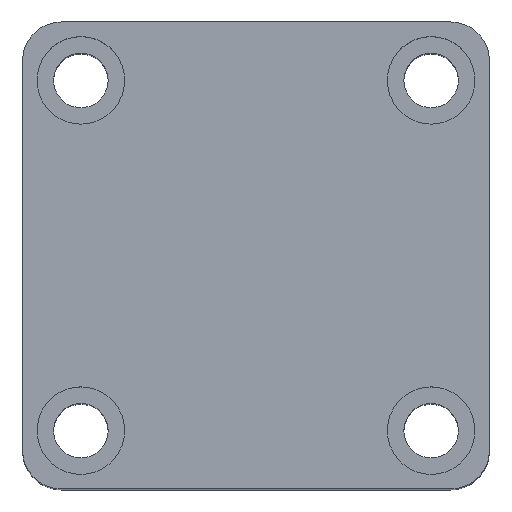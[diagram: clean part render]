
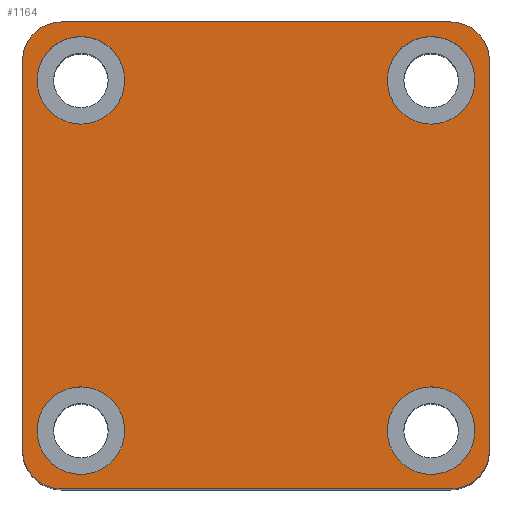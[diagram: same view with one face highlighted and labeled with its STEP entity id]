
A CAD part, top view. The second image highlights one B-rep face of the part: STEP entity #1164.
In plain terms, the highlighted planar face has unit normal (0, 0, 1).
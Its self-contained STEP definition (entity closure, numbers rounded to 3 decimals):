
#224 = CIRCLE ( 'NONE', #1001, 4. ) ;
#225 = CIRCLE ( 'NONE', #1035, 4. ) ;
#226 = CIRCLE ( 'NONE', #997, 4. ) ;
#229 = CIRCLE ( 'NONE', #1039, 4. ) ;
#230 = CIRCLE ( 'NONE', #994, 4.5 ) ;
#231 = CIRCLE ( 'NONE', #1046, 4.5 ) ;
#232 = CIRCLE ( 'NONE', #1048, 4.5 ) ;
#234 = CIRCLE ( 'NONE', #1044, 4.5 ) ;
#239 = VECTOR ( 'NONE', #2246, 1000. ) ;
#242 = LINE ( 'NONE', #2249, #239 ) ;
#247 = VECTOR ( 'NONE', #2263, 1000. ) ;
#250 = LINE ( 'NONE', #2266, #247 ) ;
#251 = VECTOR ( 'NONE', #2271, 1000. ) ;
#254 = LINE ( 'NONE', #2284, #251 ) ;
#263 = VECTOR ( 'NONE', #2352, 1000. ) ;
#265 = LINE ( 'NONE', #2339, #263 ) ;
#304 = CIRCLE ( 'NONE', #989, 4.5 ) ;
#308 = CIRCLE ( 'NONE', #936, 4.5 ) ;
#344 = CIRCLE ( 'NONE', #1057, 4.5 ) ;
#350 = CIRCLE ( 'NONE', #1066, 4.5 ) ;
#454 = FACE_BOUND ( 'NONE', #715, .T. ) ;
#456 = FACE_OUTER_BOUND ( 'NONE', #678, .T. ) ;
#458 = FACE_BOUND ( 'NONE', #692, .T. ) ;
#462 = FACE_BOUND ( 'NONE', #677, .T. ) ;
#465 = FACE_BOUND ( 'NONE', #709, .T. ) ;
#623 = VERTEX_POINT ( 'NONE', #1628 ) ;
#639 = VERTEX_POINT ( 'NONE', #1634 ) ;
#677 = EDGE_LOOP ( 'NONE', ( #2053, #2122 ) ) ;
#678 = EDGE_LOOP ( 'NONE', ( #2042, #2051, #2061, #2075, #2056, #2052, #2078, #2072 ) ) ;
#692 = EDGE_LOOP ( 'NONE', ( #2054, #2055 ) ) ;
#709 = EDGE_LOOP ( 'NONE', ( #2057, #2123 ) ) ;
#715 = EDGE_LOOP ( 'NONE', ( #2121, #2060 ) ) ;
#750 = VERTEX_POINT ( 'NONE', #1630 ) ;
#752 = VERTEX_POINT ( 'NONE', #1635 ) ;
#755 = VERTEX_POINT ( 'NONE', #1632 ) ;
#760 = VERTEX_POINT ( 'NONE', #1616 ) ;
#836 = VERTEX_POINT ( 'NONE', #1515 ) ;
#848 = VERTEX_POINT ( 'NONE', #1460 ) ;
#849 = VERTEX_POINT ( 'NONE', #1457 ) ;
#864 = VERTEX_POINT ( 'NONE', #1387 ) ;
#873 = VERTEX_POINT ( 'NONE', #1353 ) ;
#882 = VERTEX_POINT ( 'NONE', #1328 ) ;
#887 = VERTEX_POINT ( 'NONE', #1319 ) ;
#890 = VERTEX_POINT ( 'NONE', #1326 ) ;
#894 = VERTEX_POINT ( 'NONE', #1313 ) ;
#897 = VERTEX_POINT ( 'NONE', #1309 ) ;
#936 = AXIS2_PLACEMENT_3D ( 'NONE', #2557, #2568, #2556 ) ;
#965 = AXIS2_PLACEMENT_3D ( 'NONE', #1491, #1496, #1489 ) ;
#989 = AXIS2_PLACEMENT_3D ( 'NONE', #2534, #2533, #2539 ) ;
#994 = AXIS2_PLACEMENT_3D ( 'NONE', #2656, #2655, #2654 ) ;
#997 = AXIS2_PLACEMENT_3D ( 'NONE', #2643, #2642, #2639 ) ;
#1001 = AXIS2_PLACEMENT_3D ( 'NONE', #2633, #2632, #2631 ) ;
#1035 = AXIS2_PLACEMENT_3D ( 'NONE', #2636, #2635, #2634 ) ;
#1039 = AXIS2_PLACEMENT_3D ( 'NONE', #2653, #2652, #2651 ) ;
#1044 = AXIS2_PLACEMENT_3D ( 'NONE', #2166, #2165, #2164 ) ;
#1046 = AXIS2_PLACEMENT_3D ( 'NONE', #2660, #2659, #2658 ) ;
#1048 = AXIS2_PLACEMENT_3D ( 'NONE', #2163, #2662, #2663 ) ;
#1057 = AXIS2_PLACEMENT_3D ( 'NONE', #1237, #1236, #1235 ) ;
#1066 = AXIS2_PLACEMENT_3D ( 'NONE', #1247, #1246, #1245 ) ;
#1164 = ADVANCED_FACE ( 'NONE', ( #465, #454, #458, #462, #456 ), #1494, .T. ) ;
#1235 = DIRECTION ( 'NONE',  ( 1., 0., 0. ) ) ;
#1236 = DIRECTION ( 'NONE',  ( 0., 0., 1. ) ) ;
#1237 = CARTESIAN_POINT ( 'NONE',  ( 18., 18., 60. ) ) ;
#1245 = DIRECTION ( 'NONE',  ( 1., 0., 0. ) ) ;
#1246 = DIRECTION ( 'NONE',  ( 0., 0., 1. ) ) ;
#1247 = CARTESIAN_POINT ( 'NONE',  ( -18., 18., 60. ) ) ;
#1309 = CARTESIAN_POINT ( 'NONE',  ( -20., -24., 60. ) ) ;
#1313 = CARTESIAN_POINT ( 'NONE',  ( -13.5, -18., 60. ) ) ;
#1319 = CARTESIAN_POINT ( 'NONE',  ( 24., 20., 60. ) ) ;
#1326 = CARTESIAN_POINT ( 'NONE',  ( 22.5, -18., 60. ) ) ;
#1328 = CARTESIAN_POINT ( 'NONE',  ( -20., 24., 60. ) ) ;
#1353 = CARTESIAN_POINT ( 'NONE',  ( -24., -20., 60. ) ) ;
#1387 = CARTESIAN_POINT ( 'NONE',  ( 24., -20., 60. ) ) ;
#1457 = CARTESIAN_POINT ( 'NONE',  ( -22.5, 18., 60. ) ) ;
#1460 = CARTESIAN_POINT ( 'NONE',  ( 20., 24., 60. ) ) ;
#1489 = DIRECTION ( 'NONE',  ( 1., 0., 0. ) ) ;
#1491 = CARTESIAN_POINT ( 'NONE',  ( 0., 0., 60. ) ) ;
#1494 = PLANE ( 'NONE',  #965 ) ;
#1496 = DIRECTION ( 'NONE',  ( 0., 0., 1. ) ) ;
#1515 = CARTESIAN_POINT ( 'NONE',  ( -24., 20., 60. ) ) ;
#1616 = CARTESIAN_POINT ( 'NONE',  ( 13.5, 18., 60. ) ) ;
#1628 = CARTESIAN_POINT ( 'NONE',  ( 20., -24., 60. ) ) ;
#1630 = CARTESIAN_POINT ( 'NONE',  ( -13.5, 18., 60. ) ) ;
#1632 = CARTESIAN_POINT ( 'NONE',  ( 22.5, 18., 60. ) ) ;
#1634 = CARTESIAN_POINT ( 'NONE',  ( 13.5, -18., 60. ) ) ;
#1635 = CARTESIAN_POINT ( 'NONE',  ( -22.5, -18., 60. ) ) ;
#1765 = EDGE_CURVE ( 'NONE', #849, #750, #350, .T. ) ;
#1769 = EDGE_CURVE ( 'NONE', #760, #755, #344, .T. ) ;
#1792 = EDGE_CURVE ( 'NONE', #752, #894, #308, .T. ) ;
#1796 = EDGE_CURVE ( 'NONE', #639, #890, #304, .T. ) ;
#1824 = EDGE_CURVE ( 'NONE', #864, #887, #265, .T. ) ;
#1830 = EDGE_CURVE ( 'NONE', #848, #882, #254, .T. ) ;
#1832 = EDGE_CURVE ( 'NONE', #836, #873, #250, .T. ) ;
#1836 = EDGE_CURVE ( 'NONE', #897, #623, #242, .T. ) ;
#1840 = EDGE_CURVE ( 'NONE', #750, #849, #234, .T. ) ;
#1841 = EDGE_CURVE ( 'NONE', #755, #760, #232, .T. ) ;
#1842 = EDGE_CURVE ( 'NONE', #894, #752, #231, .T. ) ;
#1843 = EDGE_CURVE ( 'NONE', #890, #639, #230, .T. ) ;
#1844 = EDGE_CURVE ( 'NONE', #882, #836, #229, .T. ) ;
#1847 = EDGE_CURVE ( 'NONE', #873, #897, #226, .T. ) ;
#1848 = EDGE_CURVE ( 'NONE', #623, #864, #225, .T. ) ;
#1849 = EDGE_CURVE ( 'NONE', #887, #848, #224, .T. ) ;
#2042 = ORIENTED_EDGE ( 'NONE', *, *, #1830, .T. ) ;
#2051 = ORIENTED_EDGE ( 'NONE', *, *, #1844, .T. ) ;
#2052 = ORIENTED_EDGE ( 'NONE', *, *, #1848, .T. ) ;
#2053 = ORIENTED_EDGE ( 'NONE', *, *, #1843, .F. ) ;
#2054 = ORIENTED_EDGE ( 'NONE', *, *, #1842, .F. ) ;
#2055 = ORIENTED_EDGE ( 'NONE', *, *, #1792, .F. ) ;
#2056 = ORIENTED_EDGE ( 'NONE', *, *, #1836, .T. ) ;
#2057 = ORIENTED_EDGE ( 'NONE', *, *, #1840, .F. ) ;
#2060 = ORIENTED_EDGE ( 'NONE', *, *, #1769, .F. ) ;
#2061 = ORIENTED_EDGE ( 'NONE', *, *, #1832, .T. ) ;
#2072 = ORIENTED_EDGE ( 'NONE', *, *, #1849, .T. ) ;
#2075 = ORIENTED_EDGE ( 'NONE', *, *, #1847, .T. ) ;
#2078 = ORIENTED_EDGE ( 'NONE', *, *, #1824, .T. ) ;
#2121 = ORIENTED_EDGE ( 'NONE', *, *, #1841, .F. ) ;
#2122 = ORIENTED_EDGE ( 'NONE', *, *, #1796, .F. ) ;
#2123 = ORIENTED_EDGE ( 'NONE', *, *, #1765, .F. ) ;
#2163 = CARTESIAN_POINT ( 'NONE',  ( 18., 18., 60. ) ) ;
#2164 = DIRECTION ( 'NONE',  ( 1., 0., 0. ) ) ;
#2165 = DIRECTION ( 'NONE',  ( 0., 0., 1. ) ) ;
#2166 = CARTESIAN_POINT ( 'NONE',  ( -18., 18., 60. ) ) ;
#2246 = DIRECTION ( 'NONE',  ( 1., 0., 0. ) ) ;
#2249 = CARTESIAN_POINT ( 'NONE',  ( -24., -24., 60. ) ) ;
#2263 = DIRECTION ( 'NONE',  ( 0., -1., 0. ) ) ;
#2266 = CARTESIAN_POINT ( 'NONE',  ( -24., 24., 60. ) ) ;
#2271 = DIRECTION ( 'NONE',  ( -1., 0., 0. ) ) ;
#2284 = CARTESIAN_POINT ( 'NONE',  ( -24., 24., 60. ) ) ;
#2339 = CARTESIAN_POINT ( 'NONE',  ( 24., 24., 60. ) ) ;
#2352 = DIRECTION ( 'NONE',  ( 0., 1., 0. ) ) ;
#2533 = DIRECTION ( 'NONE',  ( 0., 0., 1. ) ) ;
#2534 = CARTESIAN_POINT ( 'NONE',  ( 18., -18., 60. ) ) ;
#2539 = DIRECTION ( 'NONE',  ( 1., 0., 0. ) ) ;
#2556 = DIRECTION ( 'NONE',  ( 1., 0., 0. ) ) ;
#2557 = CARTESIAN_POINT ( 'NONE',  ( -18., -18., 60. ) ) ;
#2568 = DIRECTION ( 'NONE',  ( 0., 0., 1. ) ) ;
#2631 = DIRECTION ( 'NONE',  ( 1., 0., 0. ) ) ;
#2632 = DIRECTION ( 'NONE',  ( 0., 0., 1. ) ) ;
#2633 = CARTESIAN_POINT ( 'NONE',  ( 20., 20., 60. ) ) ;
#2634 = DIRECTION ( 'NONE',  ( 1., 0., 0. ) ) ;
#2635 = DIRECTION ( 'NONE',  ( 0., 0., 1. ) ) ;
#2636 = CARTESIAN_POINT ( 'NONE',  ( 20., -20., 60. ) ) ;
#2639 = DIRECTION ( 'NONE',  ( 1., 0., 0. ) ) ;
#2642 = DIRECTION ( 'NONE',  ( 0., 0., 1. ) ) ;
#2643 = CARTESIAN_POINT ( 'NONE',  ( -20., -20., 60. ) ) ;
#2651 = DIRECTION ( 'NONE',  ( 1., 0., 0. ) ) ;
#2652 = DIRECTION ( 'NONE',  ( 0., 0., 1. ) ) ;
#2653 = CARTESIAN_POINT ( 'NONE',  ( -20., 20., 60. ) ) ;
#2654 = DIRECTION ( 'NONE',  ( 1., 0., 0. ) ) ;
#2655 = DIRECTION ( 'NONE',  ( 0., 0., 1. ) ) ;
#2656 = CARTESIAN_POINT ( 'NONE',  ( 18., -18., 60. ) ) ;
#2658 = DIRECTION ( 'NONE',  ( 1., 0., 0. ) ) ;
#2659 = DIRECTION ( 'NONE',  ( 0., 0., 1. ) ) ;
#2660 = CARTESIAN_POINT ( 'NONE',  ( -18., -18., 60. ) ) ;
#2662 = DIRECTION ( 'NONE',  ( 0., 0., 1. ) ) ;
#2663 = DIRECTION ( 'NONE',  ( 1., 0., 0. ) ) ;
